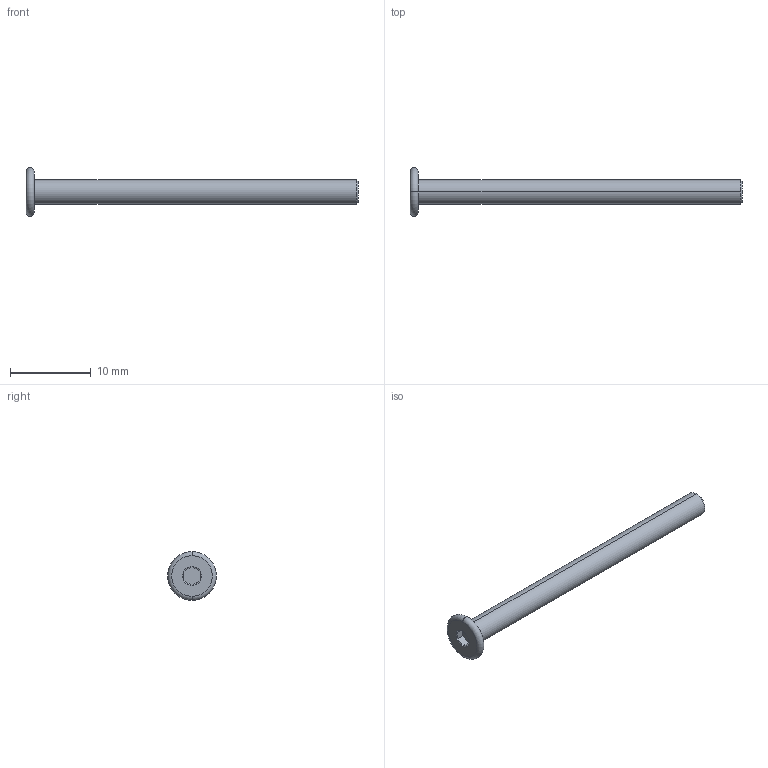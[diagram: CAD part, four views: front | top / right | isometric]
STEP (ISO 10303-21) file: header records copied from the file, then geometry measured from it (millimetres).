
FILE_DESCRIPTION (( 'STEP AP203' ), '1' );
FILE_NAME ('LGD-304M-M3x40.STEP', '2026-08-13T09:53:39', ( '' ), ( '' ), 'SwSTEP 2.0', 'SolidWorks 2020', '' );
FILE_SCHEMA (( 'CONFIG_CONTROL_DESIGN' ));
Length unit declared in the file: millimetre
Products named in the file (1): LGD-304M-M3x40
Bounding box: 41 x 6 x 6 mm (x, y, z)
Volume: 305.4 mm3; surface area: 449.2 mm2
Topology: 1 solids, 1 shells, 24 faces, 44 edges, 24 vertices
Faces by surface type: plane 10, cone 8, torus 4, cylinder 2
Entity records: 677 total; most frequent: CARTESIAN_POINT 123, DIRECTION 110, ORIENTED_EDGE 88, AXIS2_PLACEMENT_3D 47, EDGE_CURVE 44, EDGE_LOOP 26, ADVANCED_FACE 24, FACE_OUTER_BOUND 24
